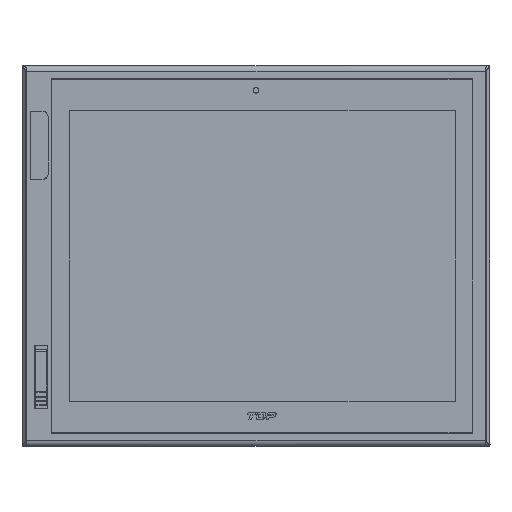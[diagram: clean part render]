
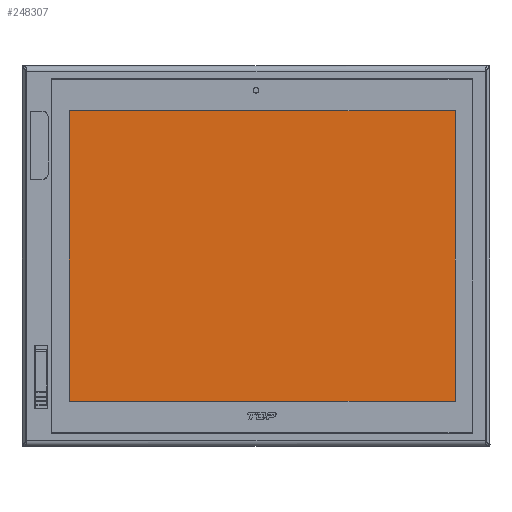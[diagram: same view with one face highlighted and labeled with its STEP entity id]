
A CAD part, top view. The second image highlights one B-rep face of the part: STEP entity #248307.
In plain terms, the highlighted planar face has unit normal (0, 0, 1).
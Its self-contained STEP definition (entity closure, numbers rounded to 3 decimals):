
#248232=DIRECTION('',(-1.,0.,0.));
#248233=VECTOR('',#248232,305.);
#248234=CARTESIAN_POINT('',(157.5,115.,3.7));
#248235=LINE('',#248234,#248233);
#248256=DIRECTION('',(0.,-1.,0.));
#248257=VECTOR('',#248256,230.);
#248258=CARTESIAN_POINT('',(-147.5,115.,3.7));
#248259=LINE('',#248258,#248257);
#248264=DIRECTION('',(1.,0.,0.));
#248265=VECTOR('',#248264,305.);
#248266=CARTESIAN_POINT('',(-147.5,-115.,3.7));
#248267=LINE('',#248266,#248265);
#248272=DIRECTION('',(0.,1.,0.));
#248273=VECTOR('',#248272,230.);
#248274=CARTESIAN_POINT('',(157.5,-115.,3.7));
#248275=LINE('',#248274,#248273);
#248276=CARTESIAN_POINT('',(157.5,115.,3.7));
#248277=CARTESIAN_POINT('',(-147.5,115.,3.7));
#248278=VERTEX_POINT('',#248276);
#248279=VERTEX_POINT('',#248277);
#248280=CARTESIAN_POINT('',(157.5,-115.,3.7));
#248281=VERTEX_POINT('',#248280);
#248282=CARTESIAN_POINT('',(-147.5,-115.,3.7));
#248283=VERTEX_POINT('',#248282);
#248292=CARTESIAN_POINT('',(0.,0.,3.7));
#248293=DIRECTION('',(0.,0.,1.));
#248294=DIRECTION('',(1.,0.,0.));
#248295=AXIS2_PLACEMENT_3D('',#248292,#248293,#248294);
#248296=PLANE('',#248295);
#248298=ORIENTED_EDGE('',*,*,#248297,.F.);
#248300=ORIENTED_EDGE('',*,*,#248299,.F.);
#248302=ORIENTED_EDGE('',*,*,#248301,.F.);
#248304=ORIENTED_EDGE('',*,*,#248303,.F.);
#248305=EDGE_LOOP('',(#248298,#248300,#248302,#248304));
#248306=FACE_OUTER_BOUND('',#248305,.F.);
#248307=ADVANCED_FACE('',(#248306),#248296,.T.);
#248297=EDGE_CURVE('',#248278,#248279,#248235,.T.);
#248299=EDGE_CURVE('',#248281,#248278,#248275,.T.);
#248301=EDGE_CURVE('',#248283,#248281,#248267,.T.);
#248303=EDGE_CURVE('',#248279,#248283,#248259,.T.);
